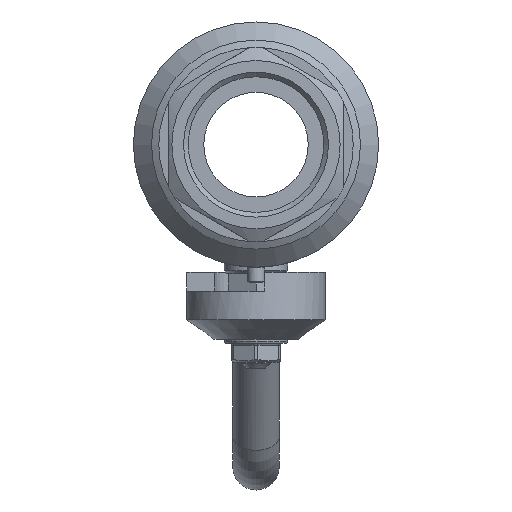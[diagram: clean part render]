
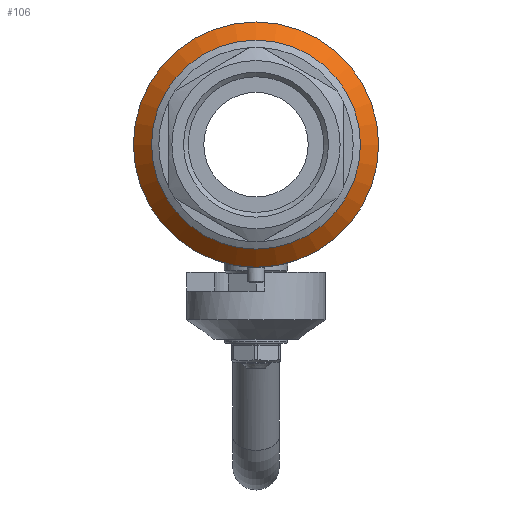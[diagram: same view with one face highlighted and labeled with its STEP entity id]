
A CAD part, left-side view. The second image highlights one B-rep face of the part: STEP entity #106.
In plain terms, the highlighted conical face has half-angle 45 degrees and reference radius 39.125 mm.
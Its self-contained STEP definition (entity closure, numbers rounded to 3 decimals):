
#106=ADVANCED_FACE('',(#970),#972,.T.);
#970=FACE_OUTER_BOUND('',#971,.T.);
#971=EDGE_LOOP('',(#2179,#2180,#2181,#2182,#2183));
#972=CONICAL_SURFACE('',#973,39.125,0.785);
#973=AXIS2_PLACEMENT_3D('',#974,#975,#976);
#974=CARTESIAN_POINT('',(-25.875,0.,0.));
#975=DIRECTION('',(1.,0.,0.));
#976=DIRECTION('',(0.,1.,0.));
#2179=ORIENTED_EDGE('',*,*,#3440,.F.);
#2180=ORIENTED_EDGE('',*,*,#3441,.T.);
#2181=ORIENTED_EDGE('',*,*,#3420,.T.);
#2182=ORIENTED_EDGE('',*,*,#3441,.F.);
#2183=ORIENTED_EDGE('',*,*,#3442,.F.);
#3420=EDGE_CURVE('',#3752,#3752,#3754,.T.);
#3440=EDGE_CURVE('',#3790,#3791,#3792,.T.);
#3441=EDGE_CURVE('',#3790,#3752,#3793,.T.);
#3442=EDGE_CURVE('',#3791,#3790,#3794,.T.);
#3752=VERTEX_POINT('',#4670);
#3754=CIRCLE('',#4674,42.25);
#3790=VERTEX_POINT('',#4767);
#3791=VERTEX_POINT('',#4768);
#3792=CIRCLE('',#4769,36.);
#3793=LINE('',#4773,#4774);
#3794=CIRCLE('',#4776,36.);
#4670=CARTESIAN_POINT('',(-22.75,-42.25,0.));
#4674=AXIS2_PLACEMENT_3D('',#4675,#4676,#4677);
#4675=CARTESIAN_POINT('',(-22.75,0.,0.));
#4676=DIRECTION('',(-1.,0.,0.));
#4677=DIRECTION('',(0.,-1.,0.));
#4767=CARTESIAN_POINT('',(-29.,-36.,0.));
#4768=CARTESIAN_POINT('',(-29.,-31.177,-18.));
#4769=AXIS2_PLACEMENT_3D('',#4770,#4771,#4772);
#4770=CARTESIAN_POINT('',(-29.,0.,0.));
#4771=DIRECTION('',(-1.,0.,0.));
#4772=DIRECTION('',(0.,-1.,0.));
#4773=CARTESIAN_POINT('',(-29.,-36.,0.));
#4774=VECTOR('',#4775,1.);
#4775=DIRECTION('',(0.707,-0.707,0.));
#4776=AXIS2_PLACEMENT_3D('',#4777,#4778,#4779);
#4777=CARTESIAN_POINT('',(-29.,0.,0.));
#4778=DIRECTION('',(-1.,0.,0.));
#4779=DIRECTION('',(0.,-0.866,-0.5));
